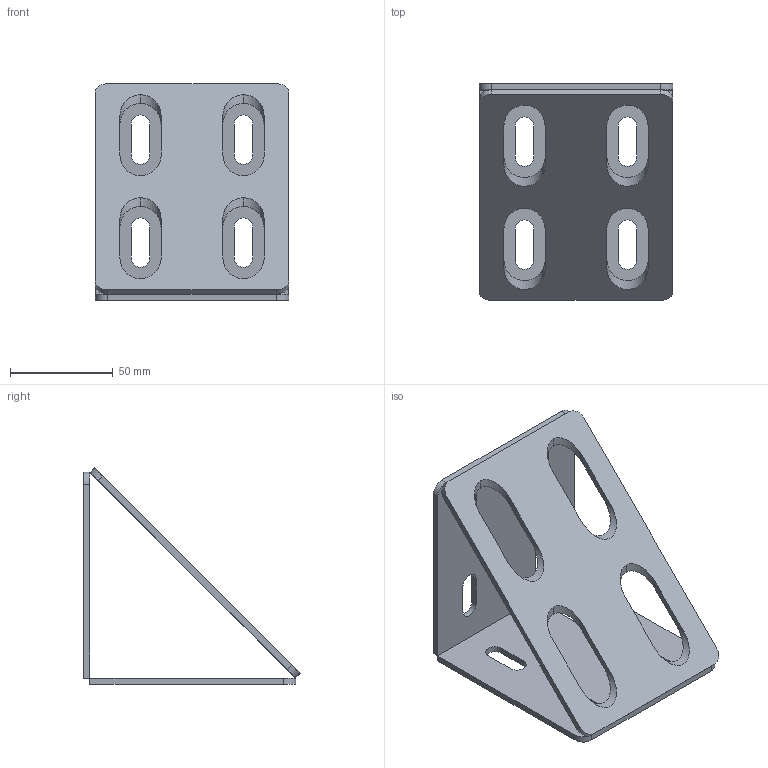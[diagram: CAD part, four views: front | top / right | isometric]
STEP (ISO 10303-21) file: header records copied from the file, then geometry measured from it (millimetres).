
FILE_DESCRIPTION (( 'STEP AP214' ), '1' );
FILE_NAME ('Ñáîðêà 8504.STEP', '2017-10-16T13:02:32', ( '' ), ( '' ), 'SwSTEP 2.0', 'SolidWorks 2014', '' );
FILE_SCHEMA (( 'AUTOMOTIVE_DESIGN' ));
Length unit declared in the file: millimetre
Products named in the file (6): 8504 - 1; 栖闉罻 8504; 8504 - 2
Assembly tree (3 placements, depth 2):
  8504 - 1
  8504 - 1
  栖闉罻 8504
    8504 - 1  x2
    8504 - 2
  8504 - 2
Bounding box: 94 x 105.12 x 105.12 mm (x, y, z)
Volume: 80185.4 mm3; surface area: 60181.5 mm2
Topology: 3 solids, 3 shells, 78 faces, 216 edges, 144 vertices
Faces by surface type: plane 42, cylinder 36
Entity records: 1909 total; most frequent: CARTESIAN_POINT 383, ORIENTED_EDGE 300, DIRECTION 276, EDGE_CURVE 150, VERTEX_POINT 100, LINE 98, VECTOR 98, AXIS2_PLACEMENT_3D 89
